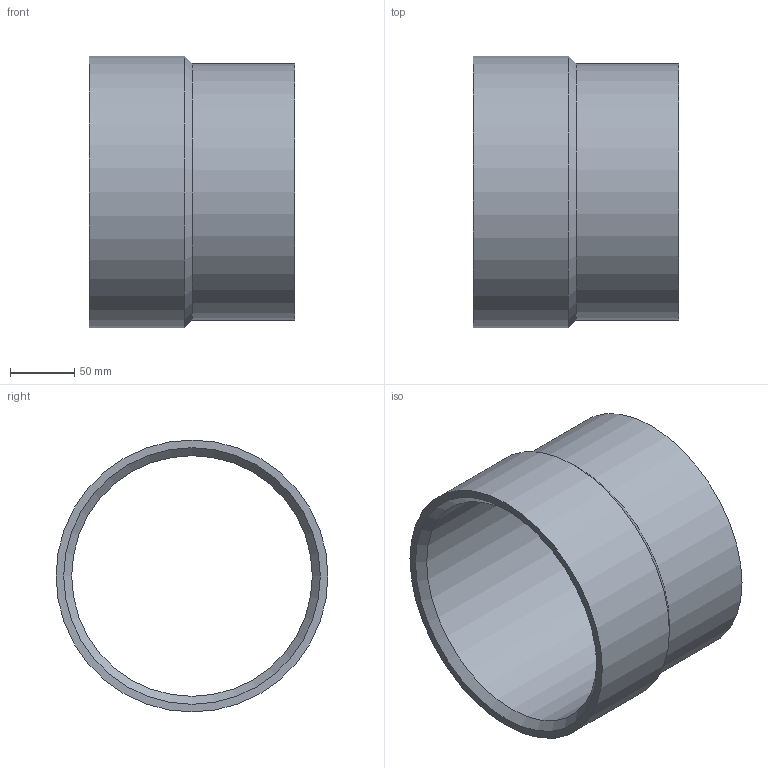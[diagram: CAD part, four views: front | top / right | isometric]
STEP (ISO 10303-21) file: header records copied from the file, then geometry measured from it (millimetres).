
FILE_DESCRIPTION(/* description */ (''),/* implementation_level */ '2;1');
FILE_NAME(/* name */ 'Z:\Geberit\Export\NewStep\370738.stp',/* time_stamp */ '2014-04-02T08:04:27+02:00',/* author */ ('ML'),/* organization */ (''),/* preprocessor_version */ 'ST-DEVELOPER v15.2',/* originating_system */ 'Autodesk Inventor 2014',/* authorisation */ '');
FILE_SCHEMA (('AUTOMOTIVE_DESIGN { 1 0 10303 214 3 1 1 }'));
Length unit declared in the file: millimetre
Products named in the file (1): 370738
Bounding box: 160 x 212 x 212 mm (x, y, z)
Volume: 891271.4 mm3; surface area: 208682.4 mm2
Topology: 1 solids, 1 shells, 7 faces, 12 edges, 7 vertices
Faces by surface type: cylinder 3, cone 2, plane 2
Full cylindrical faces by diameter (mm): 187.6 x1, 200 x1, 212 x1
Entity records: 176 total; most frequent: DIRECTION 30, CARTESIAN_POINT 22, AXIS2_PLACEMENT_3D 15, EDGE_LOOP 14, ORIENTED_EDGE 14, FACE_BOUND 8, STYLED_ITEM 8, CIRCLE 7
